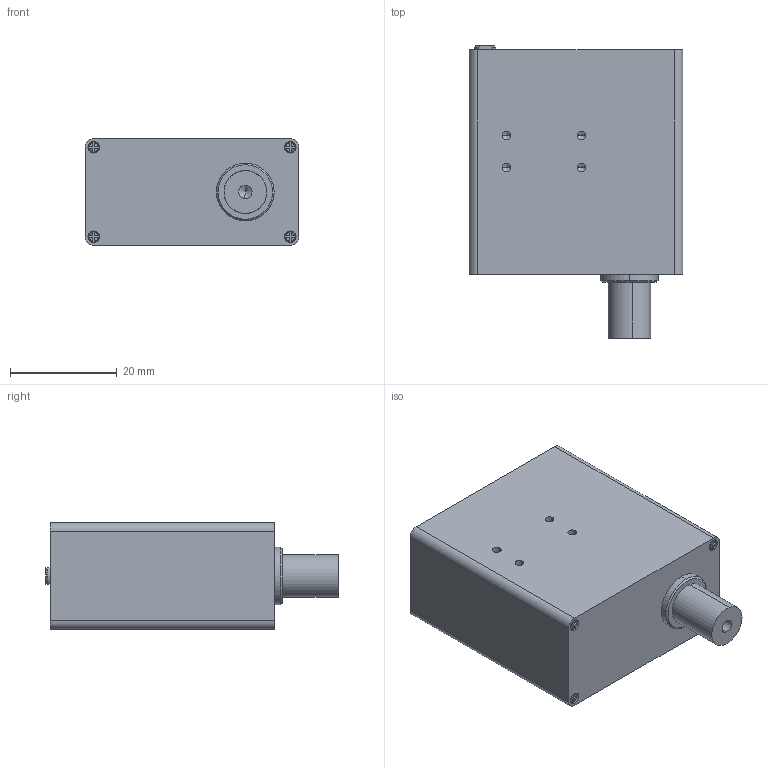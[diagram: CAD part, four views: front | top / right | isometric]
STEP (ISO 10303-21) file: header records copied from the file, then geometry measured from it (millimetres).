
FILE_DESCRIPTION (( 'STEP AP214' ), '1' );
FILE_NAME ();
FILE_SCHEMA (( 'AUTOMOTIVE_DESIGN' ));
Length unit declared in the file: millimetre
Products named in the file (3): 萇詰翋极; BLAS10-C152（2.6调整）; AS1718110-012珨极杶奪
Assembly tree (2 placements, depth 2):
  BLAS10-C152（2.6调整）
    AS1718110-012珨极杶奪
    萇詰翋极
Bounding box: 40 x 54.8 x 20 mm (x, y, z)
Volume: 33509.7 mm3; surface area: 7895.9 mm2
Topology: 2 solids, 2 shells, 298 faces, 760 edges, 487 vertices
Faces by surface type: plane 142, cylinder 106, cone 30, torus 20
Entity records: 9177 total; most frequent: CARTESIAN_POINT 1725, DIRECTION 1596, ORIENTED_EDGE 1484, EDGE_CURVE 742, AXIS2_PLACEMENT_3D 589, VERTEX_POINT 487, LINE 418, VECTOR 418
